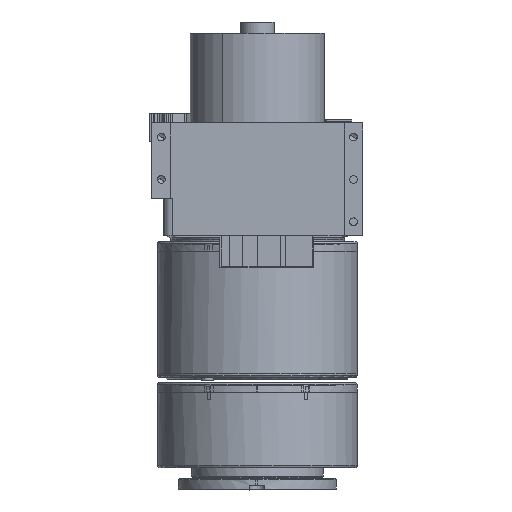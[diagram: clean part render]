
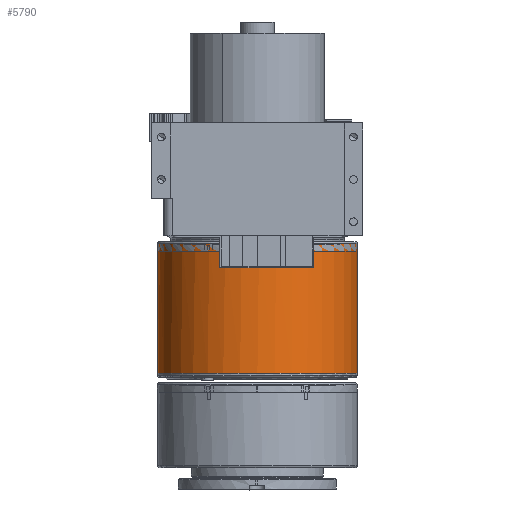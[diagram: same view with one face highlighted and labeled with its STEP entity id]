
A CAD part, left-side view. The second image highlights one B-rep face of the part: STEP entity #5790.
In plain terms, the highlighted cylindrical face has radius 53 mm (diameter 106 mm), a partial arc.
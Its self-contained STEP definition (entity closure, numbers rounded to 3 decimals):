
#5622=CARTESIAN_POINT('Vertex',(-67.522,173.,70.)) ;
#5625=CARTESIAN_POINT('Axis2P3D Location',(-14.522,173.,70.)) ;
#5629=CARTESIAN_POINT('Vertex',(38.478,173.,70.)) ;
#5730=CARTESIAN_POINT('Vertex',(-67.522,173.,1.)) ;
#5733=CARTESIAN_POINT('Line Origine',(-67.522,173.,35.5)) ;
#5759=CARTESIAN_POINT('Axis2P3D Location',(-14.522,173.,35.)) ;
#5764=CARTESIAN_POINT('Line Origine',(38.478,173.,35.)) ;
#5768=CARTESIAN_POINT('Vertex',(38.478,173.,1.)) ;
#5771=CARTESIAN_POINT('Axis2P3D Location',(-14.522,173.,1.)) ;
#5775=CARTESIAN_POINT('Vertex',(38.451,171.301,1.)) ;
#5778=CARTESIAN_POINT('Axis2P3D Location',(-14.522,173.,1.)) ;
#5626=DIRECTION('Axis2P3D Direction',(0.,0.,1.)) ;
#5734=DIRECTION('Vector Direction',(0.,0.,1.)) ;
#5760=DIRECTION('Axis2P3D Direction',(0.,0.,1.)) ;
#5761=DIRECTION('Axis2P3D XDirection',(-1.,0.,0.)) ;
#5765=DIRECTION('Vector Direction',(0.,0.,1.)) ;
#5772=DIRECTION('Axis2P3D Direction',(0.,0.,1.)) ;
#5779=DIRECTION('Axis2P3D Direction',(0.,0.,1.)) ;
#5627=AXIS2_PLACEMENT_3D('Circle Axis2P3D',#5625,#5626,$) ;
#5762=AXIS2_PLACEMENT_3D('Cylinder Axis2P3D',#5759,#5760,#5761) ;
#5773=AXIS2_PLACEMENT_3D('Circle Axis2P3D',#5771,#5772,$) ;
#5780=AXIS2_PLACEMENT_3D('Circle Axis2P3D',#5778,#5779,$) ;
#5784=ORIENTED_EDGE('',*,*,#5770,.T.) ;
#5785=ORIENTED_EDGE('',*,*,#5631,.F.) ;
#5786=ORIENTED_EDGE('',*,*,#5737,.F.) ;
#5787=ORIENTED_EDGE('',*,*,#5777,.T.) ;
#5788=ORIENTED_EDGE('',*,*,#5782,.T.) ;
#5735=VECTOR('Line Direction',#5734,1.) ;
#5766=VECTOR('Line Direction',#5765,1.) ;
#5790=ADVANCED_FACE('\X2\96F64EF651E04F554F53\X0\',(#5789),#5763,.T.) ;
#5628=CIRCLE('generated circle',#5627,53.) ;
#5774=CIRCLE('generated circle',#5773,53.) ;
#5781=CIRCLE('generated circle',#5780,53.) ;
#5763=CYLINDRICAL_SURFACE('generated cylinder',#5762,53.) ;
#5631=EDGE_CURVE('',#5623,#5630,#5628,.T.) ;
#5737=EDGE_CURVE('',#5731,#5623,#5736,.T.) ;
#5770=EDGE_CURVE('',#5769,#5630,#5767,.T.) ;
#5777=EDGE_CURVE('',#5731,#5776,#5774,.T.) ;
#5782=EDGE_CURVE('',#5776,#5769,#5781,.T.) ;
#5783=EDGE_LOOP('',(#5784,#5785,#5786,#5787,#5788)) ;
#5789=FACE_OUTER_BOUND('',#5783,.T.) ;
#5736=LINE('Line',#5733,#5735) ;
#5767=LINE('Line',#5764,#5766) ;
#5623=VERTEX_POINT('',#5622) ;
#5630=VERTEX_POINT('',#5629) ;
#5731=VERTEX_POINT('',#5730) ;
#5769=VERTEX_POINT('',#5768) ;
#5776=VERTEX_POINT('',#5775) ;
